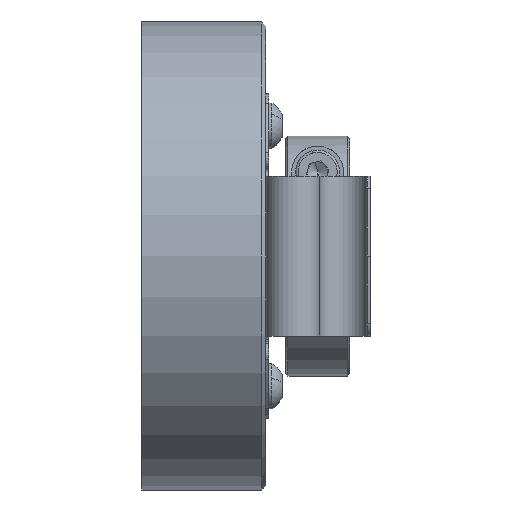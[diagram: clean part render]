
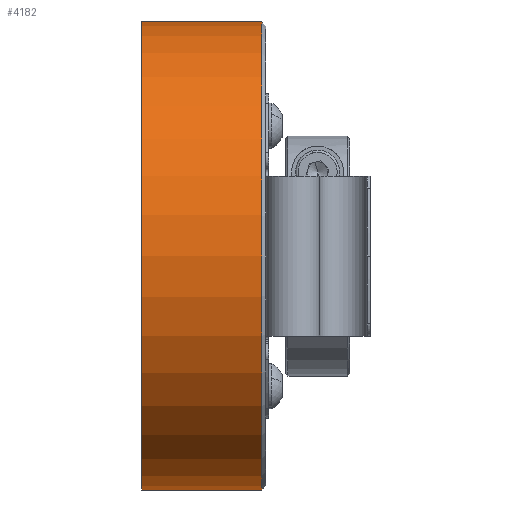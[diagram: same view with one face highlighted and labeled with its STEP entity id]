
A CAD part, left-side view. The second image highlights one B-rep face of the part: STEP entity #4182.
In plain terms, the highlighted cylindrical face has radius 29.25 mm (diameter 58.5 mm), a partial arc.
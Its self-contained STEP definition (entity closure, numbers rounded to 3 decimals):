
#675 = FACE_OUTER_BOUND ( 'NONE', #10939, .T. ) ;
#1966 = AXIS2_PLACEMENT_3D ( 'NONE', #30353, #7707, #27706 ) ;
#2041 = CYLINDRICAL_SURFACE ( 'NONE', #22221, 29.25 ) ;
#2964 = CIRCLE ( 'NONE', #6679, 29.25 ) ;
#4182 = ADVANCED_FACE ( 'NONE', ( #675 ), #2041, .T. ) ;
#6351 = VERTEX_POINT ( 'NONE', #28374 ) ;
#6679 = AXIS2_PLACEMENT_3D ( 'NONE', #36638, #16614, #28140 ) ;
#7707 = DIRECTION ( 'NONE',  ( 0., 1., 0. ) ) ;
#7729 = VECTOR ( 'NONE', #19365, 1000. ) ;
#8185 = DIRECTION ( 'NONE',  ( 0., 1., 0. ) ) ;
#8990 = EDGE_CURVE ( 'NONE', #16159, #22649, #23834, .T. ) ;
#9438 = DIRECTION ( 'NONE',  ( 0., 0., 1. ) ) ;
#9972 = LINE ( 'NONE', #36556, #16268 ) ;
#10939 = EDGE_LOOP ( 'NONE', ( #19407, #28107, #24354, #29126 ) ) ;
#15465 = EDGE_CURVE ( 'NONE', #6351, #16159, #28732, .T. ) ;
#15503 = CARTESIAN_POINT ( 'NONE',  ( 0., 32.8, 0. ) ) ;
#15561 = CARTESIAN_POINT ( 'NONE',  ( 0., 32.8, -29.25 ) ) ;
#16159 = VERTEX_POINT ( 'NONE', #16406 ) ;
#16268 = VECTOR ( 'NONE', #8185, 1000. ) ;
#16406 = CARTESIAN_POINT ( 'NONE',  ( 0., 15.5, -29.25 ) ) ;
#16614 = DIRECTION ( 'NONE',  ( 0., 1., 0. ) ) ;
#19365 = DIRECTION ( 'NONE',  ( 0., 1., 0. ) ) ;
#19407 = ORIENTED_EDGE ( 'NONE', *, *, #15465, .F. ) ;
#19444 = CARTESIAN_POINT ( 'NONE',  ( 0., 0.5, 29.25 ) ) ;
#22221 = AXIS2_PLACEMENT_3D ( 'NONE', #15503, #24031, #9438 ) ;
#22649 = VERTEX_POINT ( 'NONE', #25770 ) ;
#23834 = CIRCLE ( 'NONE', #1966, 29.25 ) ;
#24031 = DIRECTION ( 'NONE',  ( 0., 1., 0. ) ) ;
#24354 = ORIENTED_EDGE ( 'NONE', *, *, #35502, .T. ) ;
#25196 = VERTEX_POINT ( 'NONE', #19444 ) ;
#25770 = CARTESIAN_POINT ( 'NONE',  ( 0., 15.5, 29.25 ) ) ;
#27706 = DIRECTION ( 'NONE',  ( 0., 0., 1. ) ) ;
#28107 = ORIENTED_EDGE ( 'NONE', *, *, #30444, .T. ) ;
#28140 = DIRECTION ( 'NONE',  ( 0., 0., -1. ) ) ;
#28374 = CARTESIAN_POINT ( 'NONE',  ( 0., 0.5, -29.25 ) ) ;
#28732 = LINE ( 'NONE', #15561, #7729 ) ;
#29126 = ORIENTED_EDGE ( 'NONE', *, *, #8990, .F. ) ;
#30353 = CARTESIAN_POINT ( 'NONE',  ( 0., 15.5, 0. ) ) ;
#30444 = EDGE_CURVE ( 'NONE', #6351, #25196, #2964, .T. ) ;
#35502 = EDGE_CURVE ( 'NONE', #25196, #22649, #9972, .T. ) ;
#36556 = CARTESIAN_POINT ( 'NONE',  ( 0., 32.8, 29.25 ) ) ;
#36638 = CARTESIAN_POINT ( 'NONE',  ( 0., 0.5, 0. ) ) ;
